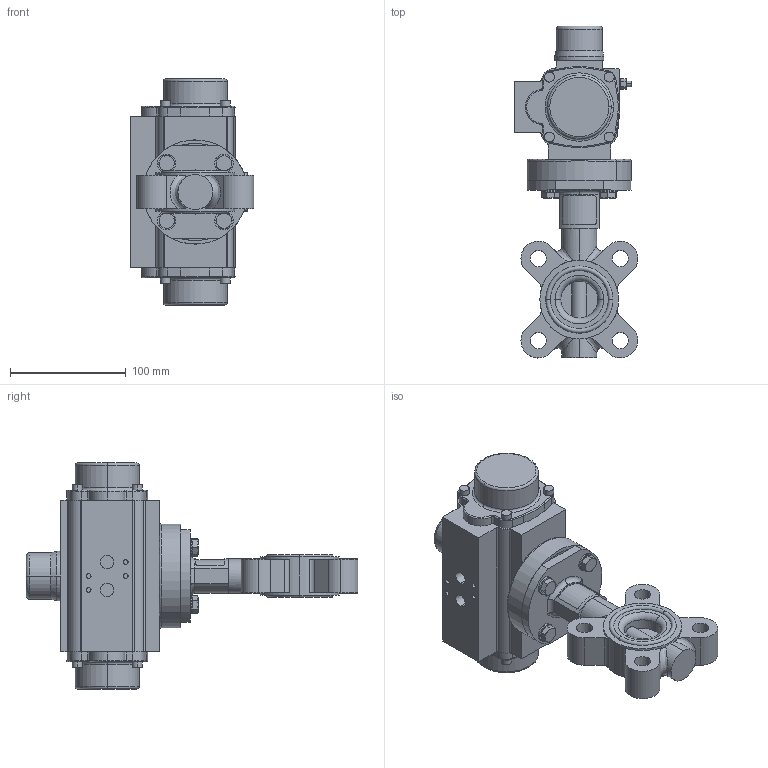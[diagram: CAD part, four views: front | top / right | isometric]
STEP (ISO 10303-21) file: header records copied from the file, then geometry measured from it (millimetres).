
FILE_DESCRIPTION (( 'STEP AP214' ), '1' );
FILE_NAME ('67349.step', '2020-10-23T12:38:22', ( '' ), ( '' ), 'SwSTEP 2.0', 'SolidWorks 2019', '' );
FILE_SCHEMA (( 'AUTOMOTIVE_DESIGN' ));
Length unit declared in the file: millimetre
Products named in the file (10): Zyl-Schr In-6kt DIN 912_M6x16; 67335_15x15x2 - L=18; TL20-0032_M01; U-Scheibe DIN 125 A_M8; 6kt-Mu DIN 934_M8; Achtkantreduktion 14-11 mm; 67349; SR0040-V14_02; Flanschadapter F07-F05; 6kt-Schr DIN 933_M8x25
Assembly tree (21 placements, depth 2):
  67349
    TL20-0032_M01
    SR0040-V14_02
    U-Scheibe DIN 125 A_M8  x4
    6kt-Schr DIN 933_M8x25  x4
    Achtkantreduktion 14-11 mm
    Flanschadapter F07-F05
    67335_15x15x2 - L=18
    Zyl-Schr In-6kt DIN 912_M6x16  x4
    6kt-Mu DIN 934_M8  x4
Bounding box: 106.3 x 286.33 x 195 mm (x, y, z)
Volume: 1413717.7 mm3; surface area: 181303.8 mm2
Topology: 22 solids, 22 shells, 951 faces, 2322 edges, 1463 vertices
Faces by surface type: plane 440, cylinder 331, cone 105, torus 59, bspline 16
Entity records: 25738 total; most frequent: CARTESIAN_POINT 5542, DIRECTION 3934, ORIENTED_EDGE 3608, EDGE_CURVE 1804, AXIS2_PLACEMENT_3D 1522, VERTEX_POINT 1160, LINE 890, VECTOR 890
